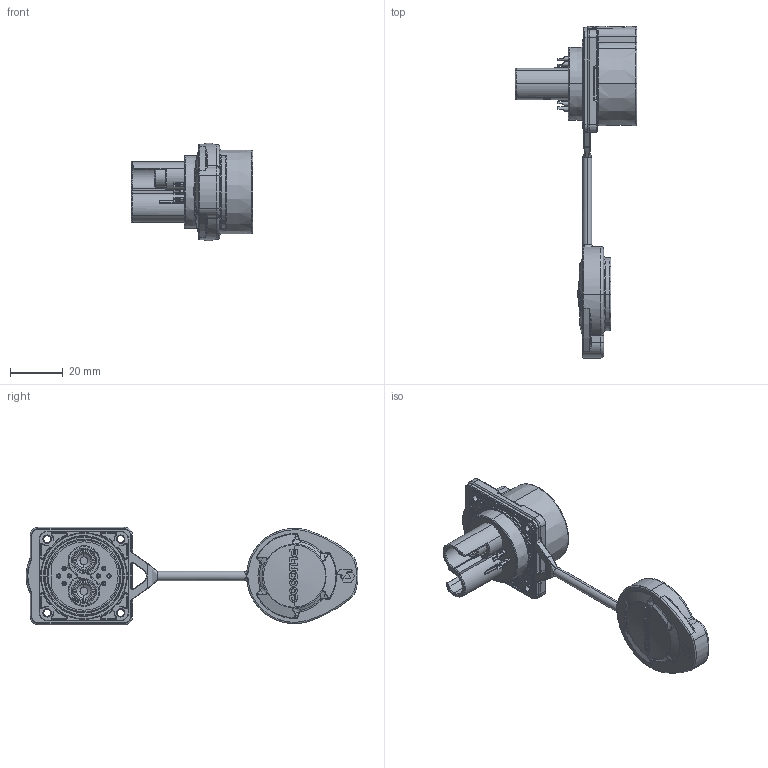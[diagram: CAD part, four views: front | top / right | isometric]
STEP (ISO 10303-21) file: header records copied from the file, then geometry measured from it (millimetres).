
FILE_DESCRIPTION (( 'STEP AP203' ), '1' );
FILE_NAME ('PLG28 2+8芯四孔安装插座正装.STEP', '2025-12-04T06:11:37', ( '' ), ( '' ), 'SwSTEP 2.0', 'SolidWorks 2024', '' );
FILE_SCHEMA (( 'CONFIG_CONTROL_DESIGN' ));
Length unit declared in the file: millimetre
Products named in the file (1): PLG28 2+8芯四孔安装插座正装
Bounding box: 46.2 x 126.27 x 37 mm (x, y, z)
Volume: 23855.3 mm3; surface area: 21263.7 mm2
Topology: 12 solids, 14 shells, 2116 faces, 5437 edges, 3302 vertices
Faces by surface type: plane 614, cylinder 560, torus 466, bspline 325, cone 135, sphere 16
Entity records: 75826 total; most frequent: CARTESIAN_POINT 26915, ORIENTED_EDGE 10790, DIRECTION 9716, EDGE_CURVE 5395, AXIS2_PLACEMENT_3D 3964, VERTEX_POINT 3302, EDGE_LOOP 2235, CIRCLE 2172
